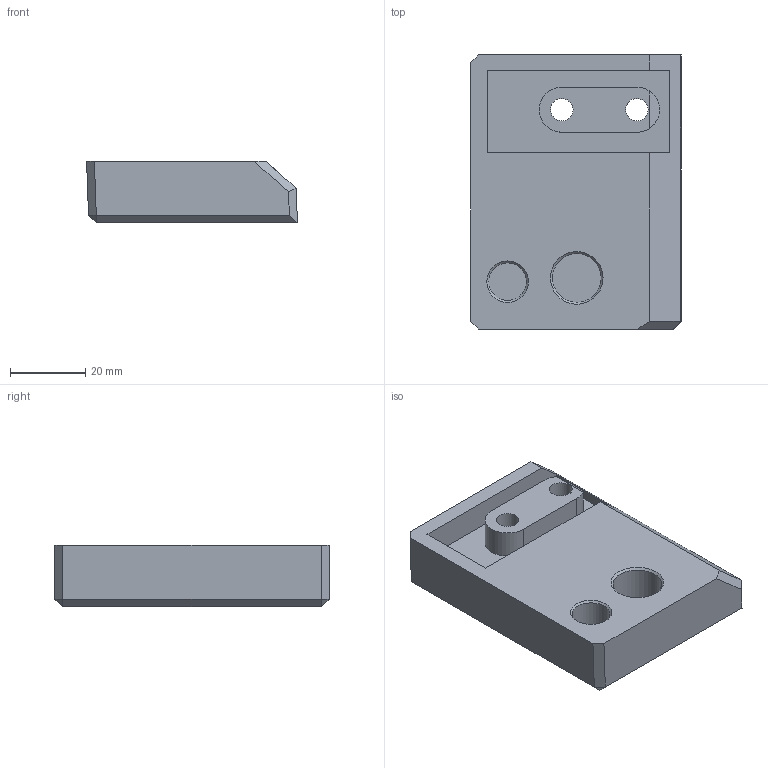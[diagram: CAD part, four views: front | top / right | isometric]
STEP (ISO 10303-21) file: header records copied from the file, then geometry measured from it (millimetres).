
FILE_DESCRIPTION(/* description */ ('STEP AP242','CAx-IF Rec.Pracs.---Representation and Presentation of Product Manufacturing Information (PMI)---4.0---2014-10-13','CAx-IF Rec.Pracs.---3D Tessellated Geometry---0.4---2014-09-14','2;1'),/* implementation_level */ '2;1');
FILE_NAME(/* name */ '64858a55f11aaa4f8fca803d',/* time_stamp */ '2023-06-11T08:48:21Z',/* author */ (''),/* organization */ (''),/* preprocessor_version */ 'ST-DEVELOPER v19.4',/* originating_system */ ' ',/* authorisation */ ' ');
FILE_SCHEMA (('AP242_MANAGED_MODEL_BASED_3D_ENGINEERING_MIM_LF { 1 0 10303 442 1 1 4 }'));
Length unit declared in the file: metre
Products named in the file (1): (Unsaved)
Bounding box: 56.13 x 73.02 x 16.5 mm (x, y, z)
Volume: 55552.8 mm3; surface area: 14547.9 mm2
Topology: 1 solids, 1 shells, 39 faces, 87 edges, 55 vertices
Faces by surface type: plane 29, cylinder 8, cone 2
Full cylindrical faces by diameter (mm): 6 x2, 9.5 x2, 10.05 x1, 13 x1
Entity records: 1050 total; most frequent: DIRECTION 178, CARTESIAN_POINT 172, ORIENTED_EDGE 156, EDGE_CURVE 78, AXIS2_PLACEMENT_3D 60, LINE 58, VECTOR 58, EDGE_LOOP 56
